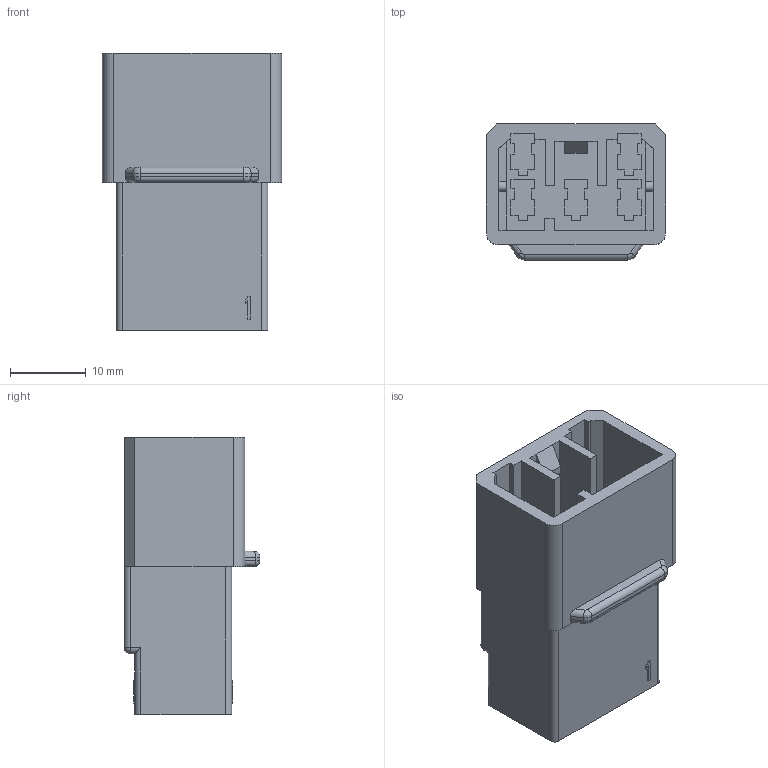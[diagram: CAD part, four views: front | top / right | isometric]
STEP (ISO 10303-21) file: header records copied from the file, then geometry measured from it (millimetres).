
FILE_DESCRIPTION((''),'2;1');
FILE_NAME('C-172504-1','2008-08-29T',('workeradm'),('Tyco Electronics Corporation'),'PRO/ENGINEER BY PARAMETRIC TECHNOLOGY CORPORATION, 2005450','PRO/ENGINEER BY PARAMETRIC TECHNOLOGY CORPORATION, 2005450','');
FILE_SCHEMA(('CONFIG_CONTROL_DESIGN', 'GEOMETRIC_VALIDATION_PROPERTIES_MIM'));
Length unit declared in the file: millimetre
Products named in the file (1): C-172504-1
Bounding box: 23.6 x 17.9 x 36.5 mm (x, y, z)
Volume: 7274.2 mm3; surface area: 5443 mm2
Topology: 1 solids, 1 shells, 223 faces, 609 edges, 400 vertices
Faces by surface type: plane 196, cylinder 21, bspline 4, sphere 2
Entity records: 7118 total; most frequent: CARTESIAN_POINT 1333, ORIENTED_EDGE 1218, DIRECTION 1079, EDGE_CURVE 609, VECTOR 565, LINE 565, VERTEX_POINT 400, AXIS2_PLACEMENT_3D 257
